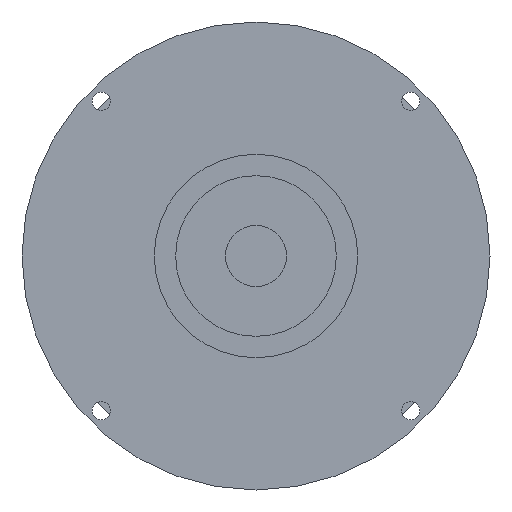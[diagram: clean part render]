
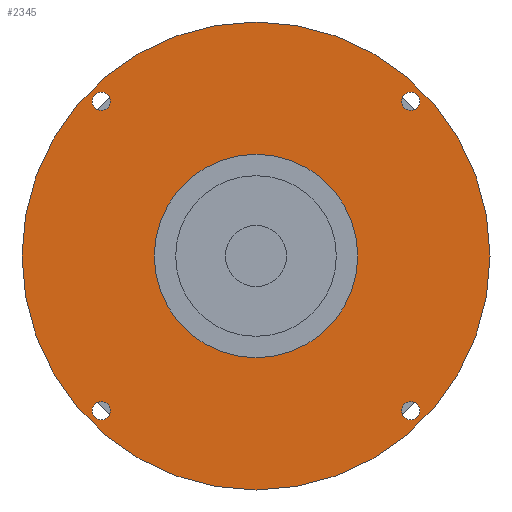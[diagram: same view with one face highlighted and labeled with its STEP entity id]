
A CAD part, left-side view. The second image highlights one B-rep face of the part: STEP entity #2345.
In plain terms, the highlighted planar face has unit normal (-1, 0, 0).
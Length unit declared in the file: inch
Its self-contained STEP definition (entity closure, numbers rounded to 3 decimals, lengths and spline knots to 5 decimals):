
#55=FACE_BOUND('',#576,.T.);
#56=FACE_BOUND('',#577,.T.);
#57=FACE_BOUND('',#578,.T.);
#58=FACE_BOUND('',#579,.T.);
#59=FACE_BOUND('',#580,.T.);
#411=FACE_OUTER_BOUND('',#575,.T.);
#575=EDGE_LOOP('',(#1547));
#576=EDGE_LOOP('',(#1548));
#577=EDGE_LOOP('',(#1549));
#578=EDGE_LOOP('',(#1550));
#579=EDGE_LOOP('',(#1551));
#580=EDGE_LOOP('',(#1552));
#782=CIRCLE('',#2523,0.17717);
#784=CIRCLE('',#2526,0.17717);
#786=CIRCLE('',#2529,0.17717);
#788=CIRCLE('',#2532,0.17717);
#790=CIRCLE('',#2535,4.52756);
#798=CIRCLE('',#2550,1.9685);
#981=VERTEX_POINT('',#3689);
#983=VERTEX_POINT('',#3695);
#985=VERTEX_POINT('',#3701);
#987=VERTEX_POINT('',#3707);
#989=VERTEX_POINT('',#3713);
#1001=VERTEX_POINT('',#3784);
#1182=EDGE_CURVE('',#981,#981,#782,.T.);
#1185=EDGE_CURVE('',#983,#983,#784,.T.);
#1188=EDGE_CURVE('',#985,#985,#786,.T.);
#1191=EDGE_CURVE('',#987,#987,#788,.T.);
#1194=EDGE_CURVE('',#989,#989,#790,.T.);
#1211=EDGE_CURVE('',#1001,#1001,#798,.T.);
#1547=ORIENTED_EDGE('',*,*,#1194,.F.);
#1548=ORIENTED_EDGE('',*,*,#1182,.T.);
#1549=ORIENTED_EDGE('',*,*,#1185,.T.);
#1550=ORIENTED_EDGE('',*,*,#1188,.T.);
#1551=ORIENTED_EDGE('',*,*,#1191,.T.);
#1552=ORIENTED_EDGE('',*,*,#1211,.T.);
#2120=PLANE('',#2551);
#2345=ADVANCED_FACE('',(#411,#55,#56,#57,#58,#59),#2120,.T.);
#2523=AXIS2_PLACEMENT_3D('',#3691,#2885,#2886);
#2526=AXIS2_PLACEMENT_3D('',#3697,#2892,#2893);
#2529=AXIS2_PLACEMENT_3D('',#3703,#2899,#2900);
#2532=AXIS2_PLACEMENT_3D('',#3709,#2906,#2907);
#2535=AXIS2_PLACEMENT_3D('',#3715,#2913,#2914);
#2550=AXIS2_PLACEMENT_3D('',#3786,#2950,#2951);
#2551=AXIS2_PLACEMENT_3D('',#3787,#2952,#2953);
#2885=DIRECTION('center_axis',(1.,0.,0.));
#2886=DIRECTION('ref_axis',(0.,0.,-1.));
#2892=DIRECTION('center_axis',(1.,0.,0.));
#2893=DIRECTION('ref_axis',(0.,0.,-1.));
#2899=DIRECTION('center_axis',(1.,0.,0.));
#2900=DIRECTION('ref_axis',(0.,0.,-1.));
#2906=DIRECTION('center_axis',(1.,0.,0.));
#2907=DIRECTION('ref_axis',(0.,0.,-1.));
#2913=DIRECTION('center_axis',(1.,0.,0.));
#2914=DIRECTION('ref_axis',(0.,0.,-1.));
#2950=DIRECTION('center_axis',(1.,0.,0.));
#2951=DIRECTION('ref_axis',(0.,0.,-1.));
#2952=DIRECTION('center_axis',(-1.,0.,0.));
#2953=DIRECTION('ref_axis',(0.,0.,1.));
#3689=CARTESIAN_POINT('',(-0.59055,-2.99268,-2.81551));
#3691=CARTESIAN_POINT('Origin',(-0.59055,-2.99268,-2.99268));
#3695=CARTESIAN_POINT('',(-0.59055,2.99268,3.16984));
#3697=CARTESIAN_POINT('Origin',(-0.59055,2.99268,2.99268));
#3701=CARTESIAN_POINT('',(-0.59055,-2.99268,3.16984));
#3703=CARTESIAN_POINT('Origin',(-0.59055,-2.99268,2.99268));
#3707=CARTESIAN_POINT('',(-0.59055,2.99268,-2.81551));
#3709=CARTESIAN_POINT('Origin',(-0.59055,2.99268,-2.99268));
#3713=CARTESIAN_POINT('',(-0.59055,-4.52756,0.));
#3715=CARTESIAN_POINT('Origin',(-0.59055,0.,0.));
#3784=CARTESIAN_POINT('',(-0.59055,-1.9685,0.));
#3786=CARTESIAN_POINT('Origin',(-0.59055,0.,0.));
#3787=CARTESIAN_POINT('Origin',(-0.59055,4.52756,0.));
